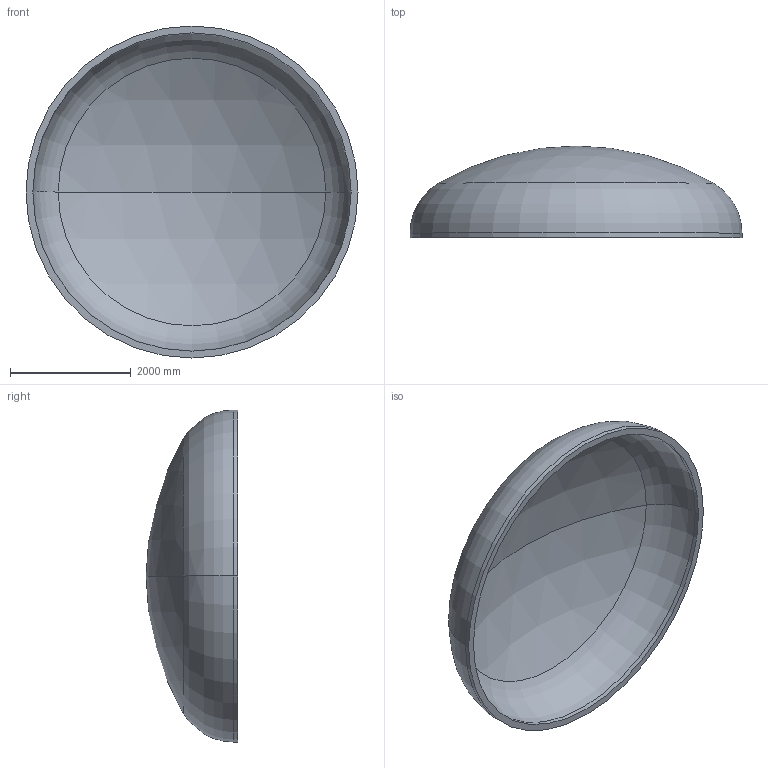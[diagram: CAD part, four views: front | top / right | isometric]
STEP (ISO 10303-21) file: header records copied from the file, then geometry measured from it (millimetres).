
FILE_DESCRIPTION (( 'STEP AP203' ), '1' );
FILE_NAME ('DIN 28013 Korbbogenform_-_Boden DIN 28013 - 5500 x 75 - I - s=114.step', '2016-07-04T10:35:23', ( '' ), ( '' ), 'SwSTEP 2.0', 'SolidWorks 2013', '' );
FILE_SCHEMA (( 'CONFIG_CONTROL_DESIGN' ));
Length unit declared in the file: millimetre
Products named in the file (1): DIN 28013 Korbbogenform_-_Boden DIN 28013 - 5500 x 75 - I - s=114
Bounding box: 5500 x 1518.11 x 5500 mm (x, y, z)
Volume: 3793191690.5 mm3; surface area: 68503367.4 mm2
Topology: 1 solids, 1 shells, 13 faces, 24 edges, 14 vertices
Faces by surface type: torus 4, cylinder 4, sphere 4, plane 1
Entity records: 407 total; most frequent: DIRECTION 72, CARTESIAN_POINT 52, ORIENTED_EDGE 48, AXIS2_PLACEMENT_3D 34, EDGE_CURVE 24, CIRCLE 20, VERTEX_POINT 14, EDGE_LOOP 14
